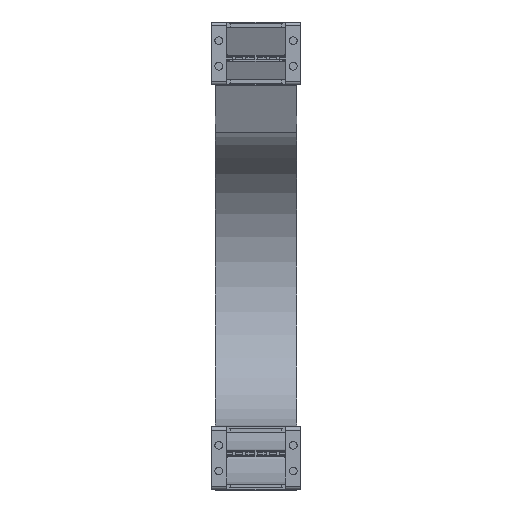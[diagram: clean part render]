
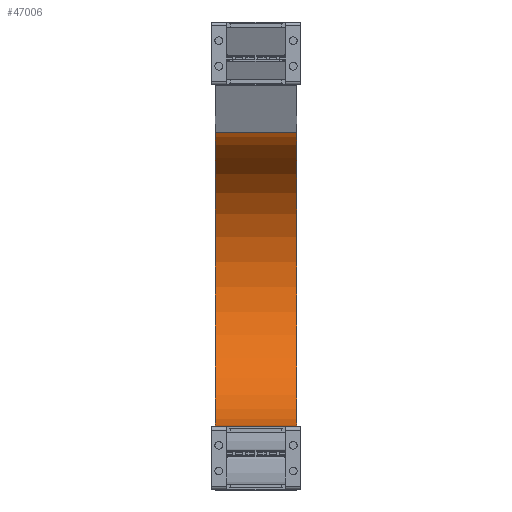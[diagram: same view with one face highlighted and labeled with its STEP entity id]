
A CAD part, top view. The second image highlights one B-rep face of the part: STEP entity #47006.
In plain terms, the highlighted cylindrical face has radius 127 mm (diameter 254 mm), a partial arc.
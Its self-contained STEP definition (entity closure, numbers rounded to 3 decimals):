
#46158=DIRECTION('',(-1.,0.,0.));
#46159=VECTOR('',#46158,70.);
#46160=CARTESIAN_POINT('',(35.,54.,-500.));
#46161=LINE('',#46160,#46159);
#46172=DIRECTION('',(-1.,0.,0.));
#46173=VECTOR('',#46172,70.);
#46174=CARTESIAN_POINT('',(35.,307.393,-512.406));
#46175=LINE('',#46174,#46173);
#46179=CARTESIAN_POINT('',(35.,181.,-500.));
#46180=DIRECTION('',(-1.,0.,0.));
#46181=DIRECTION('',(0.,0.995,-0.098));
#46182=AXIS2_PLACEMENT_3D('',#46179,#46180,#46181);
#46258=CARTESIAN_POINT('',(-35.,181.,-500.));
#46259=DIRECTION('',(-1.,0.,0.));
#46260=DIRECTION('',(0.,0.995,-0.098));
#46261=AXIS2_PLACEMENT_3D('',#46258,#46259,#46260);
#46380=CARTESIAN_POINT('',(35.,307.393,-512.406));
#46381=CARTESIAN_POINT('',(-35.,307.393,-512.406));
#46382=VERTEX_POINT('',#46380);
#46383=VERTEX_POINT('',#46381);
#46404=CARTESIAN_POINT('',(35.,54.,-500.));
#46405=CARTESIAN_POINT('',(-35.,54.,-500.));
#46406=VERTEX_POINT('',#46404);
#46407=VERTEX_POINT('',#46405);
#46992=CARTESIAN_POINT('',(1.,181.,-500.));
#46993=DIRECTION('',(-1.,0.,0.));
#46994=DIRECTION('',(0.,-0.995,0.098));
#46995=AXIS2_PLACEMENT_3D('',#46992,#46993,#46994);
#46996=CYLINDRICAL_SURFACE('',#46995,127.);
#46998=ORIENTED_EDGE('',*,*,#46997,.F.);
#47000=ORIENTED_EDGE('',*,*,#46999,.T.);
#47001=ORIENTED_EDGE('',*,*,#46975,.T.);
#47003=ORIENTED_EDGE('',*,*,#47002,.F.);
#47004=EDGE_LOOP('',(#46998,#47000,#47001,#47003));
#47005=FACE_OUTER_BOUND('',#47004,.F.);
#46183=CIRCLE('',#46182,127.);
#46262=CIRCLE('',#46261,127.);
#46975=EDGE_CURVE('',#46406,#46407,#46161,.T.);
#46997=EDGE_CURVE('',#46382,#46383,#46175,.T.);
#46999=EDGE_CURVE('',#46382,#46406,#46183,.T.);
#47002=EDGE_CURVE('',#46383,#46407,#46262,.T.);
#47006=ADVANCED_FACE('',(#47005),#46996,.F.);
